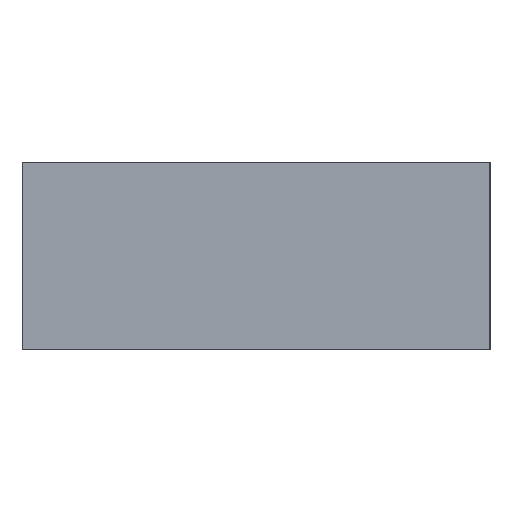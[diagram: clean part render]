
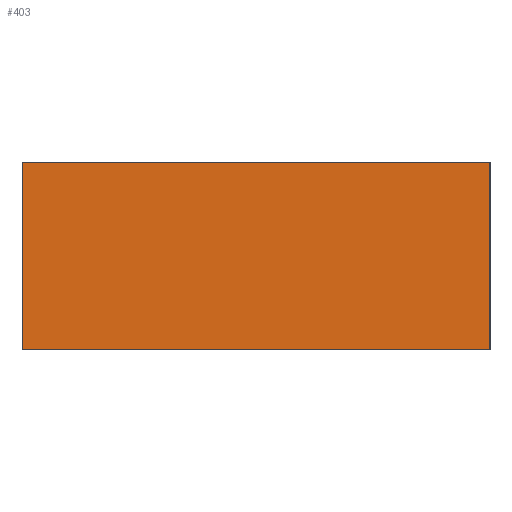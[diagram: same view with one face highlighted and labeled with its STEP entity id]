
A CAD part, left-side view. The second image highlights one B-rep face of the part: STEP entity #403.
In plain terms, the highlighted planar face has unit normal (-1, 0, 0).
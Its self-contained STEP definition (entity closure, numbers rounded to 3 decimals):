
#275 = VERTEX_POINT( '', #781 );
#391 = EDGE_CURVE( '', #607, #275, #906, .T. );
#403 = ADVANCED_FACE( '', ( #920 ), #921, .T. );
#607 = VERTEX_POINT( '', #1145 );
#685 = EDGE_CURVE( '', #733, #715, #1230, .T. );
#699 = EDGE_CURVE( '', #607, #733, #1245, .T. );
#715 = VERTEX_POINT( '', #1262 );
#733 = VERTEX_POINT( '', #1282 );
#739 = EDGE_CURVE( '', #275, #715, #1289, .T. );
#781 = CARTESIAN_POINT( '', ( -4., -35., 7. ) );
#906 = LINE( '', #1506, #1507 );
#920 = FACE_OUTER_BOUND( '', #1525, .T. );
#921 = PLANE( '', #1526 );
#1145 = CARTESIAN_POINT( '', ( -4., 0., 7. ) );
#1230 = LINE( '', #1972, #1973 );
#1245 = LINE( '', #1993, #1994 );
#1262 = CARTESIAN_POINT( '', ( -4., -35., -7. ) );
#1282 = CARTESIAN_POINT( '', ( -4., 0., -7. ) );
#1289 = LINE( '', #2054, #2055 );
#1506 = CARTESIAN_POINT( '', ( -4., 0., 7. ) );
#1507 = VECTOR( '', #2209, 1. );
#1525 = EDGE_LOOP( '', ( #2229, #2230, #2231, #2232 ) );
#1526 = AXIS2_PLACEMENT_3D( '', #2233, #2234, #2235 );
#1972 = CARTESIAN_POINT( '', ( -4., 0., -7. ) );
#1973 = VECTOR( '', #2550, 1. );
#1993 = CARTESIAN_POINT( '', ( -4., 0., 7. ) );
#1994 = VECTOR( '', #2561, 1. );
#2054 = CARTESIAN_POINT( '', ( -4., -35., 7. ) );
#2055 = VECTOR( '', #2612, 1. );
#2209 = DIRECTION( '', ( 0., -1., 0. ) );
#2229 = ORIENTED_EDGE( '', *, *, #685, .T. );
#2230 = ORIENTED_EDGE( '', *, *, #739, .F. );
#2231 = ORIENTED_EDGE( '', *, *, #391, .F. );
#2232 = ORIENTED_EDGE( '', *, *, #699, .T. );
#2233 = CARTESIAN_POINT( '', ( -4., 0., 7. ) );
#2234 = DIRECTION( '', ( -1., 0., 0. ) );
#2235 = DIRECTION( '', ( 0., 1., 0. ) );
#2550 = DIRECTION( '', ( 0., -1., 0. ) );
#2561 = DIRECTION( '', ( 0., 0., -1. ) );
#2612 = DIRECTION( '', ( 0., 0., -1. ) );
